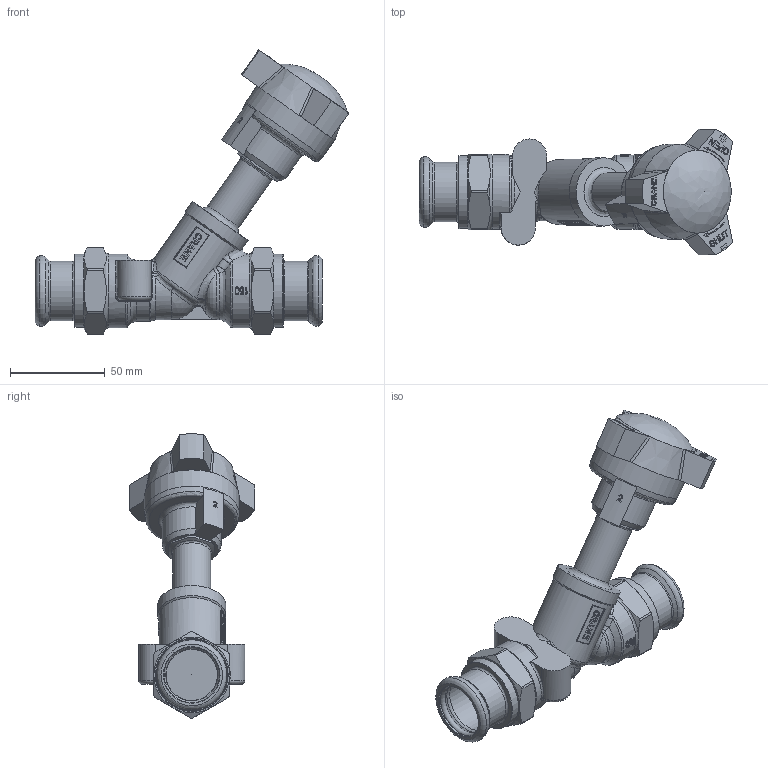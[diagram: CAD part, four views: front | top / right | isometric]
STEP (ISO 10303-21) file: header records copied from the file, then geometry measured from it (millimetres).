
FILE_DESCRIPTION((''),'2;1');
FILE_NAME('P:\Fastrack\53972_CRANE 3D\Push Fit\D921\D921-PF_28mm\D921-PF_28mm.stp','2011-08-23T16:39:34',('btaylor'),(''),'Autodesk Inventor 2008','Autodesk Inventor 2008','');
FILE_SCHEMA(('AUTOMOTIVE_DESIGN { 1 0 10303 214 1 1 1 1 }'));
Length unit declared in the file: millimetre
Products named in the file (1): D921-PF_28mm
Bounding box: 165.5 x 66.44 x 149.98 mm (x, y, z)
Volume: 242868.3 mm3; surface area: 48489.6 mm2
Topology: 1 solids, 3 shells, 776 faces, 2078 edges, 1356 vertices
Faces by surface type: bspline 337, plane 299, cylinder 73, cone 47, torus 18, sphere 2
Full cylindrical faces by diameter (mm): 20 x1, 28.25 x2, 29.25 x2, 31.4 x2, 36 x1, 38.5 x2, 39 x2, 50 x1
Entity records: 71964 total; most frequent: CARTESIAN_POINT 55272, ORIENTED_EDGE 3994, DIRECTION 2346, EDGE_CURVE 1997, VERTEX_POINT 1331, VECTOR 912, LINE 912, EDGE_LOOP 878
